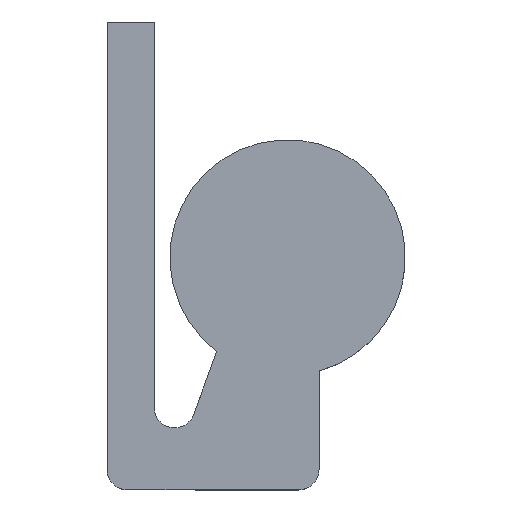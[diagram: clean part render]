
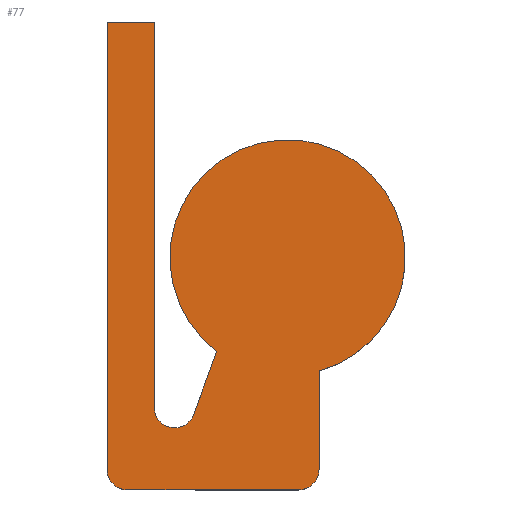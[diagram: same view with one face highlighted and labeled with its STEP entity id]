
A CAD part, top view. The second image highlights one B-rep face of the part: STEP entity #77.
In plain terms, the highlighted planar face has unit normal (0, 0, 1).
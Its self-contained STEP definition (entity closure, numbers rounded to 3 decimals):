
#77 = ADVANCED_FACE( '', ( #187 ), #188, .T. );
#187 = FACE_OUTER_BOUND( '', #335, .T. );
#188 = PLANE( '', #336 );
#335 = EDGE_LOOP( '', ( #505, #506, #507, #508, #509, #510, #511, #512, #513, #514, #515 ) );
#336 = AXIS2_PLACEMENT_3D( '', #516, #517, #518 );
#505 = ORIENTED_EDGE( '', *, *, #809, .F. );
#506 = ORIENTED_EDGE( '', *, *, #810, .T. );
#507 = ORIENTED_EDGE( '', *, *, #811, .F. );
#508 = ORIENTED_EDGE( '', *, *, #782, .F. );
#509 = ORIENTED_EDGE( '', *, *, #806, .F. );
#510 = ORIENTED_EDGE( '', *, *, #812, .F. );
#511 = ORIENTED_EDGE( '', *, *, #813, .F. );
#512 = ORIENTED_EDGE( '', *, *, #814, .F. );
#513 = ORIENTED_EDGE( '', *, *, #815, .T. );
#514 = ORIENTED_EDGE( '', *, *, #816, .F. );
#515 = ORIENTED_EDGE( '', *, *, #817, .F. );
#516 = CARTESIAN_POINT( '', ( -150., -150., 0. ) );
#517 = DIRECTION( '', ( 0., 0., 1. ) );
#518 = DIRECTION( '', ( 0., -1., 0. ) );
#782 = EDGE_CURVE( '', #905, #907, #908, .F. );
#806 = EDGE_CURVE( '', #949, #905, #951, .T. );
#809 = EDGE_CURVE( '', #954, #955, #956, .T. );
#810 = EDGE_CURVE( '', #954, #957, #958, .T. );
#811 = EDGE_CURVE( '', #907, #957, #959, .T. );
#812 = EDGE_CURVE( '', #960, #949, #961, .T. );
#813 = EDGE_CURVE( '', #962, #960, #963, .F. );
#814 = EDGE_CURVE( '', #964, #962, #965, .T. );
#815 = EDGE_CURVE( '', #964, #966, #967, .T. );
#816 = EDGE_CURVE( '', #968, #966, #969, .T. );
#817 = EDGE_CURVE( '', #955, #968, #970, .T. );
#905 = VERTEX_POINT( '', #1085 );
#907 = VERTEX_POINT( '', #1088 );
#908 = CIRCLE( '', #1089, 13. );
#949 = VERTEX_POINT( '', #1137 );
#951 = LINE( '', #1140, #1141 );
#954 = VERTEX_POINT( '', #1145 );
#955 = VERTEX_POINT( '', #1146 );
#956 = LINE( '', #1147, #1148 );
#957 = VERTEX_POINT( '', #1149 );
#958 = LINE( '', #1150, #1151 );
#959 = LINE( '', #1152, #1153 );
#960 = VERTEX_POINT( '', #1154 );
#961 = LINE( '', #1155, #1156 );
#962 = VERTEX_POINT( '', #1157 );
#963 = CIRCLE( '', #1158, 13. );
#964 = VERTEX_POINT( '', #1159 );
#965 = LINE( '', #1160, #1161 );
#966 = VERTEX_POINT( '', #1162 );
#967 = CIRCLE( '', #1163, 75. );
#968 = VERTEX_POINT( '', #1164 );
#969 = LINE( '', #1165, #1166 );
#970 = CIRCLE( '', #1167, 13. );
#1085 = CARTESIAN_POINT( '', ( -102., -148., 0. ) );
#1088 = CARTESIAN_POINT( '', ( -115., -135., 0. ) );
#1089 = AXIS2_PLACEMENT_3D( '', #1313, #1314, #1315 );
#1137 = CARTESIAN_POINT( '', ( -58.714, -148., 0. ) );
#1140 = CARTESIAN_POINT( '', ( -150., -148., 0. ) );
#1141 = VECTOR( '', #1357, 1000. );
#1145 = CARTESIAN_POINT( '', ( -85., 150., 0. ) );
#1146 = CARTESIAN_POINT( '', ( -85., -95.485, 0. ) );
#1147 = CARTESIAN_POINT( '', ( -85., -150., 0. ) );
#1148 = VECTOR( '', #1359, 1000. );
#1149 = CARTESIAN_POINT( '', ( -115., 150., 0. ) );
#1150 = CARTESIAN_POINT( '', ( 150., 150., 0. ) );
#1151 = VECTOR( '', #1360, 1000. );
#1152 = CARTESIAN_POINT( '', ( -115., -150., 0. ) );
#1153 = VECTOR( '', #1361, 1000. );
#1154 = CARTESIAN_POINT( '', ( 7., -148., 0. ) );
#1155 = CARTESIAN_POINT( '', ( -150., -148., 0. ) );
#1156 = VECTOR( '', #1362, 1000. );
#1157 = CARTESIAN_POINT( '', ( 20., -135., 0. ) );
#1158 = AXIS2_PLACEMENT_3D( '', #1363, #1364, #1365 );
#1159 = CARTESIAN_POINT( '', ( 20., -72.284, 0. ) );
#1160 = CARTESIAN_POINT( '', ( 20., -150., 0. ) );
#1161 = VECTOR( '', #1366, 1000. );
#1162 = CARTESIAN_POINT( '', ( -45.196, -59.852, 0. ) );
#1163 = AXIS2_PLACEMENT_3D( '', #1367, #1368, #1369 );
#1164 = CARTESIAN_POINT( '', ( -59.784, -99.931, 0. ) );
#1165 = CARTESIAN_POINT( '', ( -86.429, -173.138, 0. ) );
#1166 = VECTOR( '', #1370, 1000. );
#1167 = AXIS2_PLACEMENT_3D( '', #1371, #1372, #1373 );
#1313 = CARTESIAN_POINT( '', ( -102., -135., 0. ) );
#1314 = DIRECTION( '', ( 0., 0., 1. ) );
#1315 = DIRECTION( '', ( 1., 0., 0. ) );
#1357 = DIRECTION( '', ( -1., 0., 0. ) );
#1359 = DIRECTION( '', ( 0., -1., 0. ) );
#1360 = DIRECTION( '', ( -1., 0., 0. ) );
#1361 = DIRECTION( '', ( 0., 1., 0. ) );
#1362 = DIRECTION( '', ( -1., 0., 0. ) );
#1363 = CARTESIAN_POINT( '', ( 7., -135., 0. ) );
#1364 = DIRECTION( '', ( 0., 0., 1. ) );
#1365 = DIRECTION( '', ( 1., 0., 0. ) );
#1366 = DIRECTION( '', ( 0., -1., 0. ) );
#1367 = CARTESIAN_POINT( '', ( 0., 0., 0. ) );
#1368 = DIRECTION( '', ( 0., 0., 1. ) );
#1369 = DIRECTION( '', ( 1., 0., 0. ) );
#1370 = DIRECTION( '', ( 0.342, 0.94, 0. ) );
#1371 = CARTESIAN_POINT( '', ( -72., -95.485, 0. ) );
#1372 = DIRECTION( '', ( 0., 0., 1. ) );
#1373 = DIRECTION( '', ( 1., 0., 0. ) );
